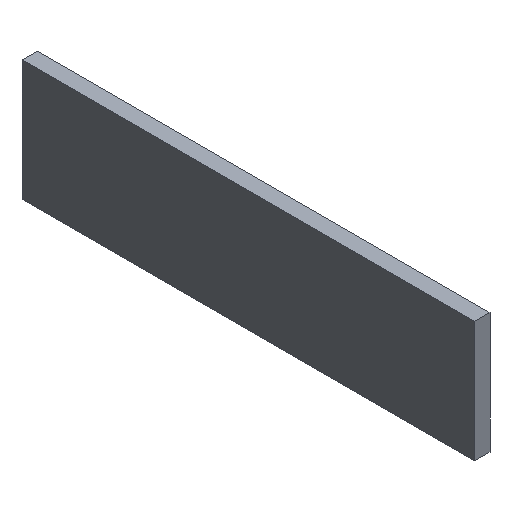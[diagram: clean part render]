
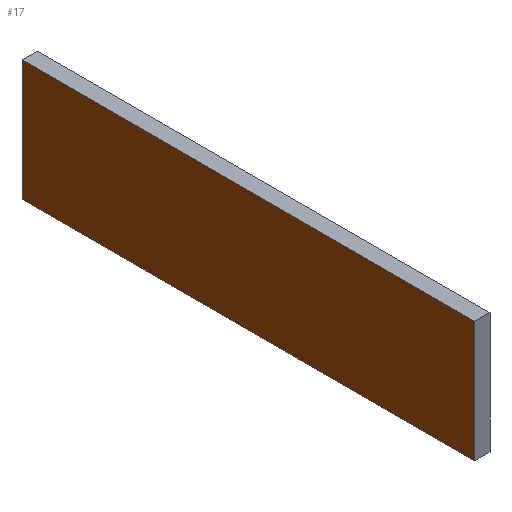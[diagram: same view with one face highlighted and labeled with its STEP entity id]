
A CAD part, isometric view. The second image highlights one B-rep face of the part: STEP entity #17.
In plain terms, the highlighted planar face has unit normal (-1, 0, 0).
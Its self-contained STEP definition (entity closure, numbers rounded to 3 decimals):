
#17 = ADVANCED_FACE('',(#18),#32,.F.);
#18 = FACE_BOUND('',#19,.F.);
#19 = EDGE_LOOP('',(#20,#55,#83,#111));
#20 = ORIENTED_EDGE('',*,*,#21,.F.);
#21 = EDGE_CURVE('',#22,#24,#26,.T.);
#22 = VERTEX_POINT('',#23);
#23 = CARTESIAN_POINT('',(-39.2,-48.,-11.8));
#24 = VERTEX_POINT('',#25);
#25 = CARTESIAN_POINT('',(-39.2,-48.,-10.2));
#26 = SURFACE_CURVE('',#27,(#31,#43),.PCURVE_S1.);
#27 = LINE('',#28,#29);
#28 = CARTESIAN_POINT('',(-39.2,-48.,-11.8));
#29 = VECTOR('',#30,1.);
#30 = DIRECTION('',(0.,0.,1.));
#31 = PCURVE('',#32,#37);
#32 = PLANE('',#33);
#33 = AXIS2_PLACEMENT_3D('',#34,#35,#36);
#34 = CARTESIAN_POINT('',(-39.2,-48.,-11.8));
#35 = DIRECTION('',(1.,0.,-0.));
#36 = DIRECTION('',(0.,0.,1.));
#37 = DEFINITIONAL_REPRESENTATION('',(#38),#42);
#38 = LINE('',#39,#40);
#39 = CARTESIAN_POINT('',(0.,0.));
#40 = VECTOR('',#41,1.);
#41 = DIRECTION('',(1.,0.));
#42 = ( GEOMETRIC_REPRESENTATION_CONTEXT(2) 
PARAMETRIC_REPRESENTATION_CONTEXT() REPRESENTATION_CONTEXT('2D SPACE',''
  ) );
#43 = PCURVE('',#44,#49);
#44 = PLANE('',#45);
#45 = AXIS2_PLACEMENT_3D('',#46,#47,#48);
#46 = CARTESIAN_POINT('',(-39.2,-48.,-11.8));
#47 = DIRECTION('',(-0.,1.,0.));
#48 = DIRECTION('',(0.,0.,1.));
#49 = DEFINITIONAL_REPRESENTATION('',(#50),#54);
#50 = LINE('',#51,#52);
#51 = CARTESIAN_POINT('',(0.,0.));
#52 = VECTOR('',#53,1.);
#53 = DIRECTION('',(1.,0.));
#54 = ( GEOMETRIC_REPRESENTATION_CONTEXT(2) 
PARAMETRIC_REPRESENTATION_CONTEXT() REPRESENTATION_CONTEXT('2D SPACE',''
  ) );
#55 = ORIENTED_EDGE('',*,*,#56,.T.);
#56 = EDGE_CURVE('',#22,#57,#59,.T.);
#57 = VERTEX_POINT('',#58);
#58 = CARTESIAN_POINT('',(-39.2,-42.,-11.8));
#59 = SURFACE_CURVE('',#60,(#64,#71),.PCURVE_S1.);
#60 = LINE('',#61,#62);
#61 = CARTESIAN_POINT('',(-39.2,-48.,-11.8));
#62 = VECTOR('',#63,1.);
#63 = DIRECTION('',(-0.,1.,0.));
#64 = PCURVE('',#32,#65);
#65 = DEFINITIONAL_REPRESENTATION('',(#66),#70);
#66 = LINE('',#67,#68);
#67 = CARTESIAN_POINT('',(0.,0.));
#68 = VECTOR('',#69,1.);
#69 = DIRECTION('',(0.,-1.));
#70 = ( GEOMETRIC_REPRESENTATION_CONTEXT(2) 
PARAMETRIC_REPRESENTATION_CONTEXT() REPRESENTATION_CONTEXT('2D SPACE',''
  ) );
#71 = PCURVE('',#72,#77);
#72 = PLANE('',#73);
#73 = AXIS2_PLACEMENT_3D('',#74,#75,#76);
#74 = CARTESIAN_POINT('',(-39.2,-48.,-11.8));
#75 = DIRECTION('',(0.,0.,1.));
#76 = DIRECTION('',(1.,0.,-0.));
#77 = DEFINITIONAL_REPRESENTATION('',(#78),#82);
#78 = LINE('',#79,#80);
#79 = CARTESIAN_POINT('',(0.,0.));
#80 = VECTOR('',#81,1.);
#81 = DIRECTION('',(0.,1.));
#82 = ( GEOMETRIC_REPRESENTATION_CONTEXT(2) 
PARAMETRIC_REPRESENTATION_CONTEXT() REPRESENTATION_CONTEXT('2D SPACE',''
  ) );
#83 = ORIENTED_EDGE('',*,*,#84,.T.);
#84 = EDGE_CURVE('',#57,#85,#87,.T.);
#85 = VERTEX_POINT('',#86);
#86 = CARTESIAN_POINT('',(-39.2,-42.,-10.2));
#87 = SURFACE_CURVE('',#88,(#92,#99),.PCURVE_S1.);
#88 = LINE('',#89,#90);
#89 = CARTESIAN_POINT('',(-39.2,-42.,-11.8));
#90 = VECTOR('',#91,1.);
#91 = DIRECTION('',(0.,0.,1.));
#92 = PCURVE('',#32,#93);
#93 = DEFINITIONAL_REPRESENTATION('',(#94),#98);
#94 = LINE('',#95,#96);
#95 = CARTESIAN_POINT('',(0.,-6.));
#96 = VECTOR('',#97,1.);
#97 = DIRECTION('',(1.,0.));
#98 = ( GEOMETRIC_REPRESENTATION_CONTEXT(2) 
PARAMETRIC_REPRESENTATION_CONTEXT() REPRESENTATION_CONTEXT('2D SPACE',''
  ) );
#99 = PCURVE('',#100,#105);
#100 = PLANE('',#101);
#101 = AXIS2_PLACEMENT_3D('',#102,#103,#104);
#102 = CARTESIAN_POINT('',(-39.2,-42.,-11.8));
#103 = DIRECTION('',(-0.,1.,0.));
#104 = DIRECTION('',(0.,0.,1.));
#105 = DEFINITIONAL_REPRESENTATION('',(#106),#110);
#106 = LINE('',#107,#108);
#107 = CARTESIAN_POINT('',(0.,0.));
#108 = VECTOR('',#109,1.);
#109 = DIRECTION('',(1.,0.));
#110 = ( GEOMETRIC_REPRESENTATION_CONTEXT(2) 
PARAMETRIC_REPRESENTATION_CONTEXT() REPRESENTATION_CONTEXT('2D SPACE',''
  ) );
#111 = ORIENTED_EDGE('',*,*,#112,.F.);
#112 = EDGE_CURVE('',#24,#85,#113,.T.);
#113 = SURFACE_CURVE('',#114,(#118,#125),.PCURVE_S1.);
#114 = LINE('',#115,#116);
#115 = CARTESIAN_POINT('',(-39.2,-48.,-10.2));
#116 = VECTOR('',#117,1.);
#117 = DIRECTION('',(-0.,1.,0.));
#118 = PCURVE('',#32,#119);
#119 = DEFINITIONAL_REPRESENTATION('',(#120),#124);
#120 = LINE('',#121,#122);
#121 = CARTESIAN_POINT('',(1.6,0.));
#122 = VECTOR('',#123,1.);
#123 = DIRECTION('',(0.,-1.));
#124 = ( GEOMETRIC_REPRESENTATION_CONTEXT(2) 
PARAMETRIC_REPRESENTATION_CONTEXT() REPRESENTATION_CONTEXT('2D SPACE',''
  ) );
#125 = PCURVE('',#126,#131);
#126 = PLANE('',#127);
#127 = AXIS2_PLACEMENT_3D('',#128,#129,#130);
#128 = CARTESIAN_POINT('',(-39.2,-48.,-10.2));
#129 = DIRECTION('',(0.,0.,1.));
#130 = DIRECTION('',(1.,0.,-0.));
#131 = DEFINITIONAL_REPRESENTATION('',(#132),#136);
#132 = LINE('',#133,#134);
#133 = CARTESIAN_POINT('',(0.,0.));
#134 = VECTOR('',#135,1.);
#135 = DIRECTION('',(0.,1.));
#136 = ( GEOMETRIC_REPRESENTATION_CONTEXT(2) 
PARAMETRIC_REPRESENTATION_CONTEXT() REPRESENTATION_CONTEXT('2D SPACE',''
  ) );
